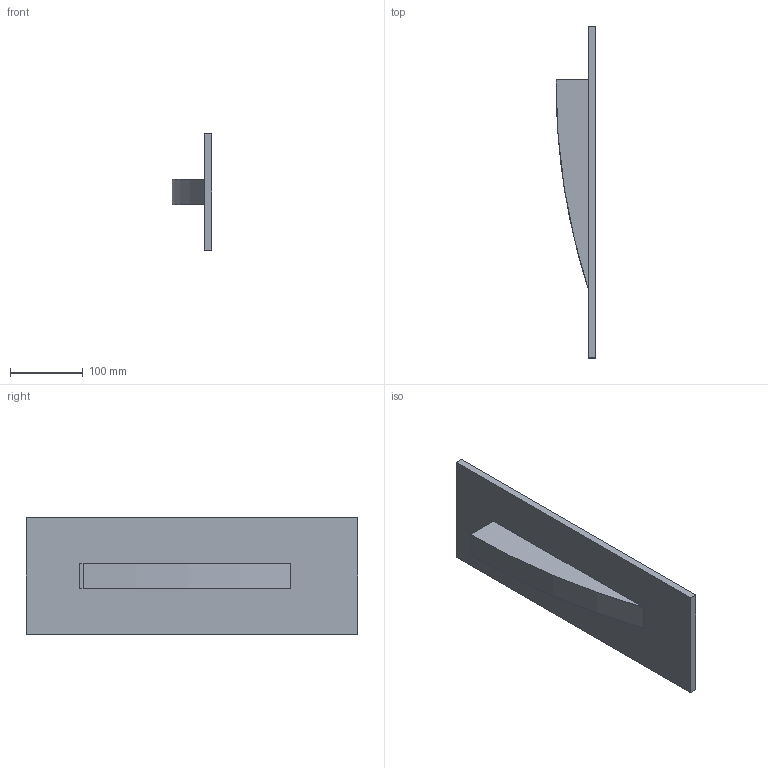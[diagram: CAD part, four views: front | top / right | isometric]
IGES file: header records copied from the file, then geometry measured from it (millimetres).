
Start section: SolidWorks IGES file using analytic representation for surfaces
Global section: file name: C:\Users\Stagiaire\Desktop\Rendu 3D\Slim SLOT XL\3201 Slim SLOT XL\3201_Slim_SLOT_XL.IGS; native system: SolidWorks 2014; preprocessor: SolidWorks 2014; author: Stagiaire; date: 140915.121146; units: millimetre
Bounding box: 55 x 457 x 160 mm (x, y, z)
Surface area: 199499.9 mm2 (no closed solid volume)
Topology: 0 solids, 0 shells, 15 faces, 94 edges, 94 vertices
Faces by surface type: bspline 12, revolution 3
